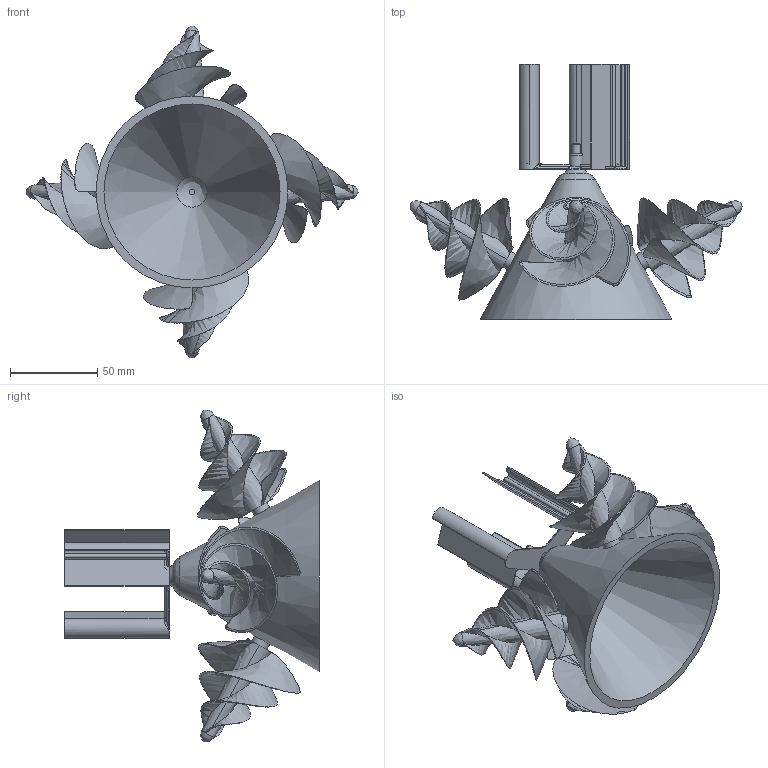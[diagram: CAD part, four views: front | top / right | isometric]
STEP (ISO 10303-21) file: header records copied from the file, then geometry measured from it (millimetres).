
FILE_DESCRIPTION(/* description */ (''),/* implementation_level */ '2;1');
FILE_NAME(/* name */ 'Assieme_archimede3.stp',/* time_stamp */ '2025-01-05T09:28:46+01:00',/* author */ ('R5800u'),/* organization */ (''),/* preprocessor_version */ 'ST-DEVELOPER v20',/* originating_system */ 'Autodesk Inventor 2025',/* authorisation */ '');
FILE_SCHEMA (('AUTOMOTIVE_DESIGN { 1 0 10303 214 3 1 1 }'));
Length unit declared in the file: millimetre
Products named in the file (4): Assieme_archimede2; cono; elica3_small_50%; stampa_lenz2a
Assembly tree (6 placements, depth 2):
  Assieme_archimede2
    elica3_small_50%  x4
    cono
    stampa_lenz2a
Bounding box: 190.22 x 146 x 190.22 mm (x, y, z)
Volume: 123895.8 mm3; surface area: 110088.7 mm2
Topology: 6 solids, 6 shells, 254 faces, 686 edges, 446 vertices
Faces by surface type: cylinder 76, bspline 72, plane 55, cone 35, torus 16
Full cylindrical faces by diameter (mm): 4.8 x1, 4.85 x4, 5 x5, 7.8 x1, 10 x4
Entity records: 9040 total; most frequent: CARTESIAN_POINT 4607, ORIENTED_EDGE 924, DIRECTION 882, EDGE_CURVE 462, AXIS2_PLACEMENT_3D 358, VERTEX_POINT 302, EDGE_LOOP 188, FACE_OUTER_BOUND 176
